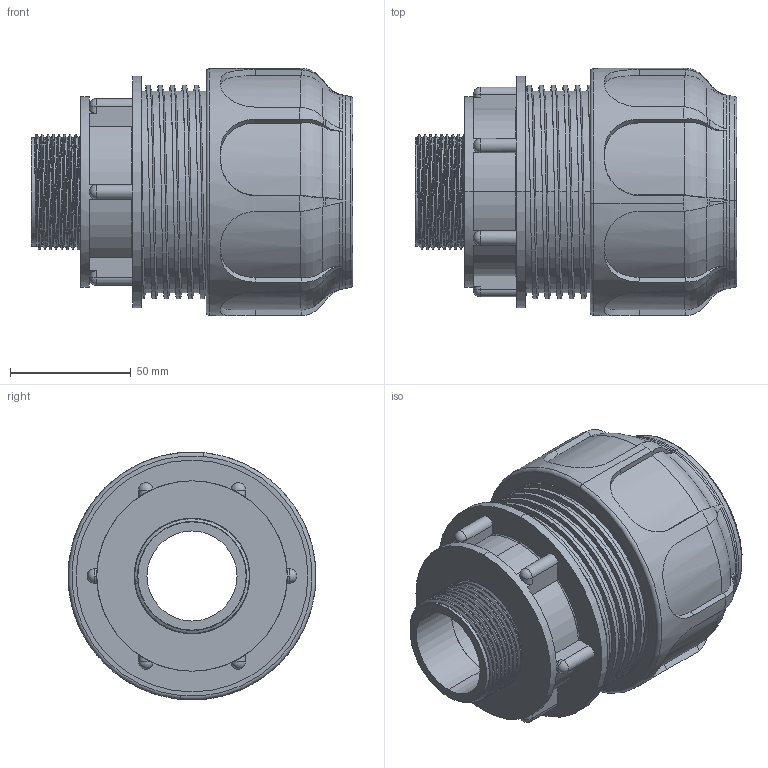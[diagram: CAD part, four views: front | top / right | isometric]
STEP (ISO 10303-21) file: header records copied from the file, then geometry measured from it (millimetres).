
FILE_DESCRIPTION (( 'STEP AP203' ), '1' );
FILE_NAME ('02004.1150.STEP', '2017-05-22T14:25:40', ( '' ), ( '' ), 'SwSTEP 2.0', 'SolidWorks 2011', '' );
FILE_SCHEMA (( 'CONFIG_CONTROL_DESIGN' ));
Length unit declared in the file: millimetre
Products named in the file (3): 02004.1150; 01711_5050; 01770_1150
Assembly tree (2 placements, depth 2):
  02004.1150
    01770_1150
    01711_5050
Bounding box: 133.11 x 102.6 x 102.6 mm (x, y, z)
Volume: 271721.8 mm3; surface area: 145349.2 mm2
Topology: 2 solids, 2 shells, 428 faces, 1212 edges, 787 vertices
Faces by surface type: cylinder 139, plane 131, torus 105, cone 36, bspline 11, sphere 6
Entity records: 24141 total; most frequent: CARTESIAN_POINT 13545, ORIENTED_EDGE 2402, DIRECTION 1946, EDGE_CURVE 1201, AXIS2_PLACEMENT_3D 793, VERTEX_POINT 785, EDGE_LOOP 440, FACE_OUTER_BOUND 428
